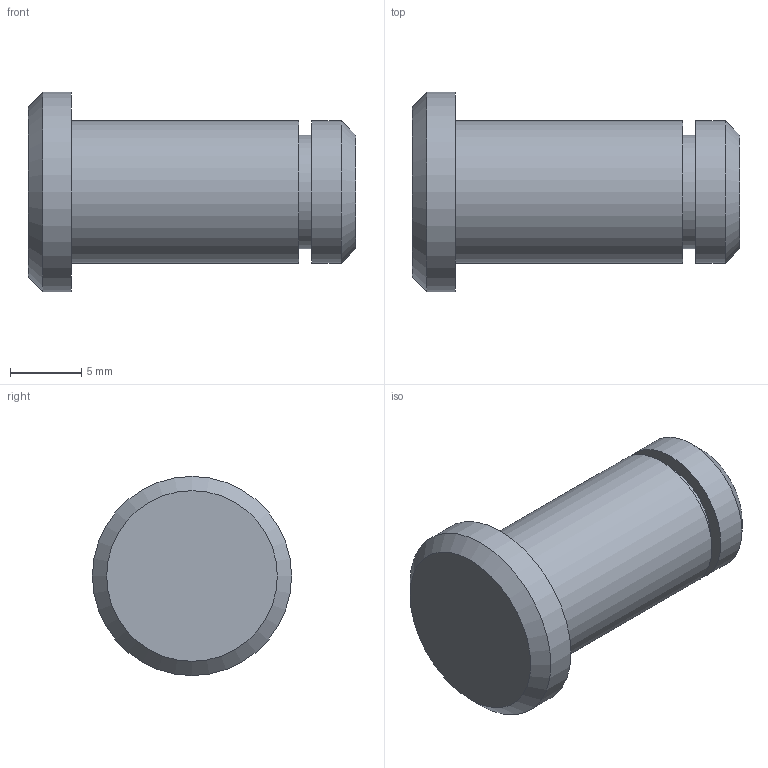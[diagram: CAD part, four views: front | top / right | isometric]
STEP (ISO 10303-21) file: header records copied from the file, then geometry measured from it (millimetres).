
FILE_DESCRIPTION(/* description */ (''),/* implementation_level */ '2;1');
FILE_NAME(/* name */ '',/* time_stamp */ '2024-08-09T12:59:53+09:00',/* author */ ('jhkim'),/* organization */ (''),/* preprocessor_version */ 'ST-DEVELOPER v20',/* originating_system */ 'Autodesk Inventor 2025',/* authorisation */ '');
FILE_SCHEMA (('AUTOMOTIVE_DESIGN { 1 0 10303 214 3 1 1 }'));
Length unit declared in the file: millimetre
Products named in the file (1): 핀
Bounding box: 23 x 14 x 14 mm (x, y, z)
Volume: 1971.6 mm3; surface area: 1072.3 mm2
Topology: 1 solids, 1 shells, 11 faces, 16 edges, 10 vertices
Faces by surface type: plane 5, cylinder 4, cone 2
Full cylindrical faces by diameter (mm): 8 x1, 10 x2, 14 x1
Entity records: 287 total; most frequent: DIRECTION 50, CARTESIAN_POINT 38, ORIENTED_EDGE 32, AXIS2_PLACEMENT_3D 22, EDGE_CURVE 16, EDGE_LOOP 14, FACE_OUTER_BOUND 11, ADVANCED_FACE 11
